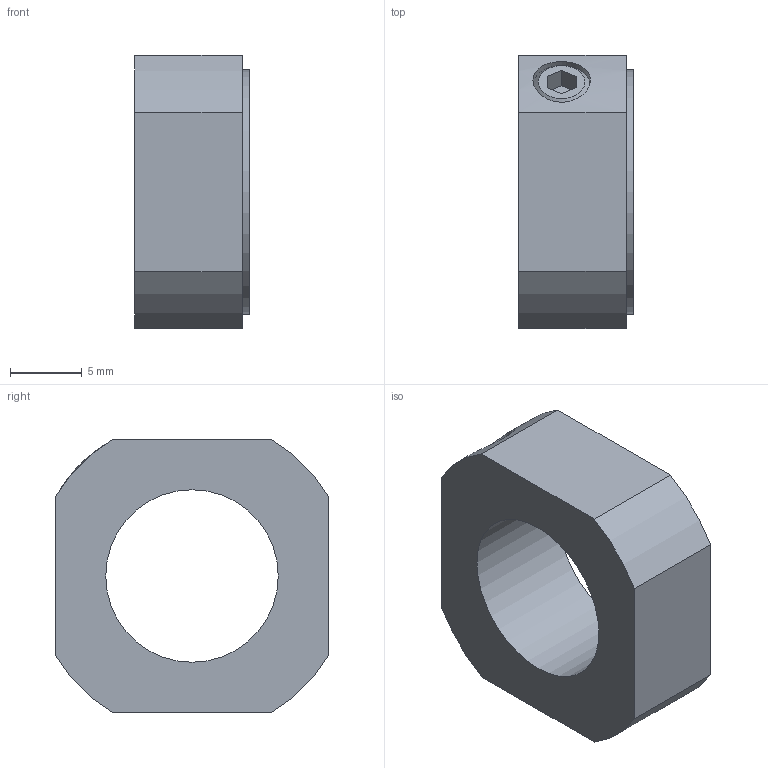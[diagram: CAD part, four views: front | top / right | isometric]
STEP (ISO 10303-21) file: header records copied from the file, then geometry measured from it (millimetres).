
FILE_DESCRIPTION((''),'2;1');
FILE_NAME('D:\製品 (図面)\カタログ用3D\ネジ関連\STEP形式\LNM\LNM12×1.stp','2010-06-02T14:35:56',('Tsuchiya'),(''),'Autodesk Inventor 10','Autodesk Inventor 10','');
FILE_SCHEMA(('AUTOMOTIVE_DESIGN { 1 0 10303 214 1 1 1 1 }'));
Length unit declared in the file: millimetre
Products named in the file (1): LNM12×1
Bounding box: 8 x 19 x 19 mm (x, y, z)
Volume: 1714.5 mm3; surface area: 1292.9 mm2
Topology: 1 solids, 1 shells, 23 faces, 55 edges, 37 vertices
Faces by surface type: plane 15, cylinder 6, cone 1, bspline 1
Full cylindrical faces by diameter (mm): 4 x1, 17 x1
Entity records: 738 total; most frequent: CARTESIAN_POINT 187, DIRECTION 108, ORIENTED_EDGE 100, EDGE_CURVE 50, AXIS2_PLACEMENT_3D 37, VERTEX_POINT 36, VECTOR 34, LINE 34
